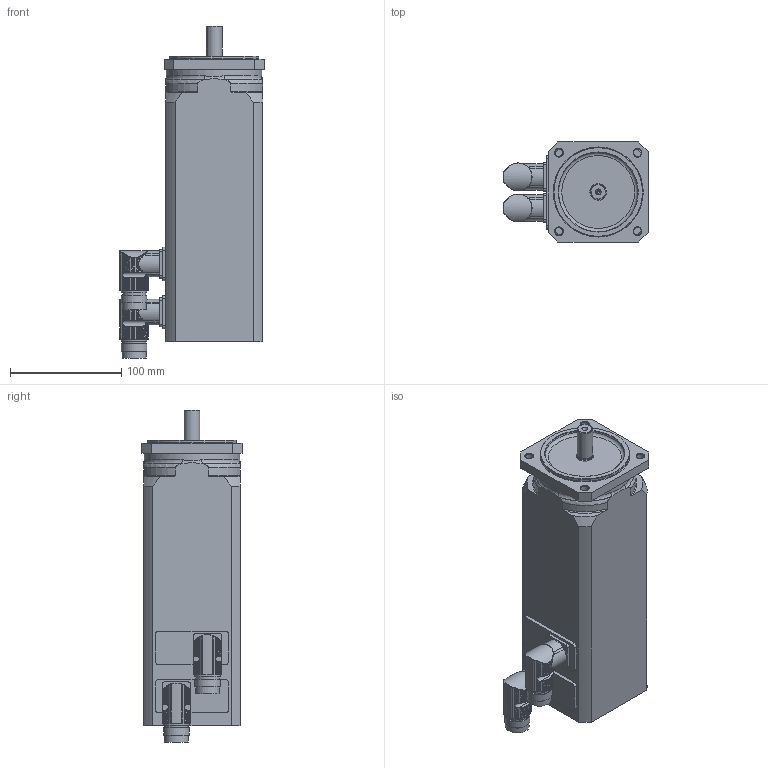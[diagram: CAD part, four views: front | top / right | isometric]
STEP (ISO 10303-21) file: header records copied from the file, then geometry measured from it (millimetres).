
FILE_DESCRIPTION(/* description */ (''),/* implementation_level */ '2;1');
FILE_NAME(/* name */ 'MR 7436-Ux-Nxxx-G01-A0D-MS',/* time_stamp */ '2007-07-13T09:50:00+01:00',/* author */ (''),/* organization */ ('ESR Pollmeier GmbH'),/* preprocessor_version */ 'ST-DEVELOPER v8',/* originating_system */ 'UNIGRAPHICS SOLUTIONS - UNIGRAPHICS 18.0',/* authorisation */ '');
FILE_SCHEMA (('AUTOMOTIVE_DESIGN { 1 2 10303 214 0 1 1 1 }'));
Length unit declared in the file: millimetre
Products named in the file (3): Winkelflanschdose_0; Rotor_SY3_0; MR7436-Ux-Nxxx-G01-A0D-MS_0
Assembly tree (3 placements, depth 2):
  MR7436-Ux-Nxxx-G01-A0D-MS_0
    Rotor_SY3_0
    Winkelflanschdose_0  x2
Bounding box: 129.99 x 90 x 298.65 mm (x, y, z)
Volume: 1945886.8 mm3; surface area: 120345.9 mm2
Topology: 4 solids, 4 shells, 427 faces, 1188 edges, 787 vertices
Faces by surface type: cylinder 315, plane 74, cone 17, torus 17, bspline 4
Full cylindrical faces by diameter (mm): 2.5 x1, 7 x4, 13.52 x1, 14 x1, 15 x1, 16 x2, 21 x2, 21.5 x2, 23 x4, 72 x1, 80 x1, 86 x1
Entity records: 8857 total; most frequent: CARTESIAN_POINT 2369, ORIENTED_EDGE 1358, DIRECTION 1280, EDGE_CURVE 679, AXIS2_PLACEMENT_3D 518, VERTEX_POINT 465, EDGE_LOOP 313, ADVANCED_FACE 263
